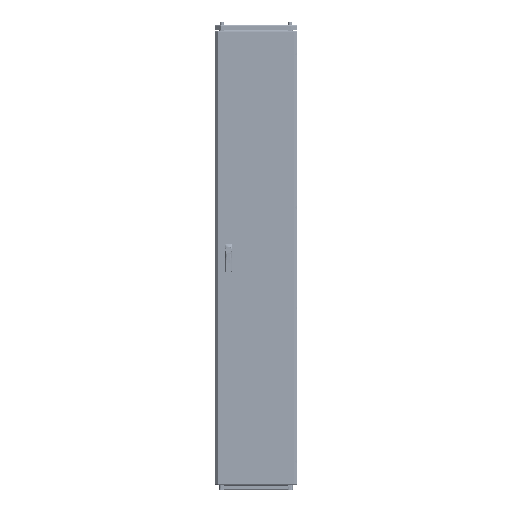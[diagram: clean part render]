
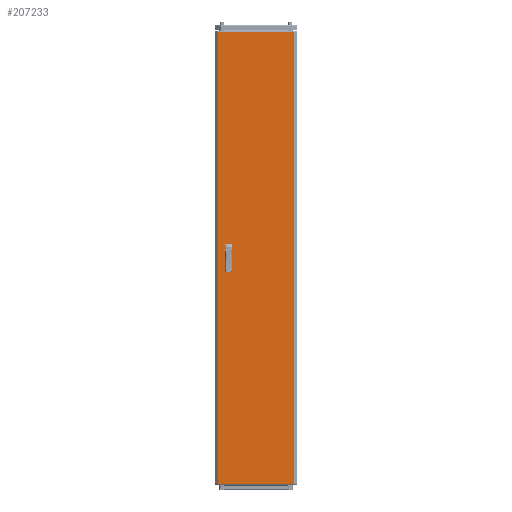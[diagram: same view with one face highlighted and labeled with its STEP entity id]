
A CAD part, top view. The second image highlights one B-rep face of the part: STEP entity #207233.
In plain terms, the highlighted planar face has unit normal (0, 0, 1).
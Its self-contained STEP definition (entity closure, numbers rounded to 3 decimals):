
#635 = DIRECTION ( 'NONE',  ( 0., -1., 0. ) ) ;
#8031 = VECTOR ( 'NONE', #155814, 1000. ) ;
#8429 = EDGE_CURVE ( 'NONE', #83377, #210552, #193304, .T. ) ;
#9588 = LINE ( 'NONE', #71155, #249215 ) ;
#12951 = VECTOR ( 'NONE', #177826, 1000. ) ;
#16030 = LINE ( 'NONE', #194416, #8031 ) ;
#16830 = DIRECTION ( 'NONE',  ( 0., 0., -1. ) ) ;
#21239 = LINE ( 'NONE', #99475, #12951 ) ;
#25514 = VERTEX_POINT ( 'NONE', #42220 ) ;
#29034 = VERTEX_POINT ( 'NONE', #188998 ) ;
#29462 = VECTOR ( 'NONE', #79240, 1000. ) ;
#39290 = EDGE_CURVE ( 'NONE', #113518, #168071, #102592, .T. ) ;
#39614 = EDGE_CURVE ( 'NONE', #95389, #169929, #21239, .T. ) ;
#39867 = ORIENTED_EDGE ( 'NONE', *, *, #8429, .T. ) ;
#40278 = ORIENTED_EDGE ( 'NONE', *, *, #245644, .F. ) ;
#41080 = CARTESIAN_POINT ( 'NONE',  ( -142.5, 12.5, 0. ) ) ;
#42220 = CARTESIAN_POINT ( 'NONE',  ( 177.875, 1069.5, 0. ) ) ;
#42899 = EDGE_LOOP ( 'NONE', ( #149286, #40278, #44922, #120618 ) ) ;
#44922 = ORIENTED_EDGE ( 'NONE', *, *, #70590, .F. ) ;
#52587 = DIRECTION ( 'NONE',  ( -1., 0., 0. ) ) ;
#53176 = DIRECTION ( 'NONE',  ( 1., 0., 0. ) ) ;
#56841 = VECTOR ( 'NONE', #229194, 1000. ) ;
#57498 = CARTESIAN_POINT ( 'NONE',  ( 177.875, -1069.5, 0. ) ) ;
#59467 = CARTESIAN_POINT ( 'NONE',  ( -117.5, -62.5, 0. ) ) ;
#65649 = FACE_BOUND ( 'NONE', #42899, .T. ) ;
#67154 = ORIENTED_EDGE ( 'NONE', *, *, #226108, .T. ) ;
#69339 = CARTESIAN_POINT ( 'NONE',  ( -142.5, -62.5, 0. ) ) ;
#70062 = CARTESIAN_POINT ( 'NONE',  ( -177.875, 1069.5, 0. ) ) ;
#70590 = EDGE_CURVE ( 'NONE', #169929, #29034, #146839, .T. ) ;
#71155 = CARTESIAN_POINT ( 'NONE',  ( -142.5, 12.5, 0. ) ) ;
#73103 = CARTESIAN_POINT ( 'NONE',  ( -117.5, -12.5, 0. ) ) ;
#73648 = CARTESIAN_POINT ( 'NONE',  ( -117.5, 62.5, 0. ) ) ;
#78703 = CARTESIAN_POINT ( 'NONE',  ( -142.5, 12.5, 0. ) ) ;
#78894 = ORIENTED_EDGE ( 'NONE', *, *, #213904, .T. ) ;
#79240 = DIRECTION ( 'NONE',  ( 0., 1., 0. ) ) ;
#80743 = CARTESIAN_POINT ( 'NONE',  ( -142.5, -12.5, 0. ) ) ;
#81761 = VECTOR ( 'NONE', #52587, 1000. ) ;
#83377 = VERTEX_POINT ( 'NONE', #70062 ) ;
#83753 = VERTEX_POINT ( 'NONE', #90258 ) ;
#90258 = CARTESIAN_POINT ( 'NONE',  ( 177.875, -1069.5, 0. ) ) ;
#94575 = VECTOR ( 'NONE', #145589, 1000. ) ;
#95058 = DIRECTION ( 'NONE',  ( -1., 0., 0. ) ) ;
#95389 = VERTEX_POINT ( 'NONE', #80743 ) ;
#96321 = CARTESIAN_POINT ( 'NONE',  ( 0., 0., 0. ) ) ;
#99475 = CARTESIAN_POINT ( 'NONE',  ( -142.5, -62.5, 0. ) ) ;
#102283 = CARTESIAN_POINT ( 'NONE',  ( -177.875, -1069.5, 0. ) ) ;
#102592 = LINE ( 'NONE', #41080, #164383 ) ;
#102963 = LINE ( 'NONE', #59467, #205726 ) ;
#103356 = EDGE_CURVE ( 'NONE', #110490, #95389, #228548, .T. ) ;
#104509 = EDGE_CURVE ( 'NONE', #125290, #113518, #185203, .T. ) ;
#107015 = VECTOR ( 'NONE', #128250, 1000. ) ;
#110490 = VERTEX_POINT ( 'NONE', #73103 ) ;
#110810 = CARTESIAN_POINT ( 'NONE',  ( -117.5, 12.5, 0. ) ) ;
#111608 = ORIENTED_EDGE ( 'NONE', *, *, #113900, .F. ) ;
#113518 = VERTEX_POINT ( 'NONE', #245037 ) ;
#113541 = CARTESIAN_POINT ( 'NONE',  ( -177.875, -1069.5, 0. ) ) ;
#113900 = EDGE_CURVE ( 'NONE', #221355, #125290, #16030, .T. ) ;
#120618 = ORIENTED_EDGE ( 'NONE', *, *, #39614, .F. ) ;
#121486 = ORIENTED_EDGE ( 'NONE', *, *, #196801, .T. ) ;
#125290 = VERTEX_POINT ( 'NONE', #73648 ) ;
#126105 = DIRECTION ( 'NONE',  ( -1., 0., 0. ) ) ;
#126158 = EDGE_CURVE ( 'NONE', #168071, #221355, #9588, .T. ) ;
#128250 = DIRECTION ( 'NONE',  ( -1., 0., 0. ) ) ;
#136739 = CARTESIAN_POINT ( 'NONE',  ( -177.875, -1069.5, 0. ) ) ;
#141539 = DIRECTION ( 'NONE',  ( 0., 1., 0. ) ) ;
#143956 = FACE_OUTER_BOUND ( 'NONE', #172152, .T. ) ;
#145589 = DIRECTION ( 'NONE',  ( 1., 0., 0. ) ) ;
#146839 = LINE ( 'NONE', #243288, #94575 ) ;
#149286 = ORIENTED_EDGE ( 'NONE', *, *, #103356, .F. ) ;
#150746 = LINE ( 'NONE', #113541, #56841 ) ;
#155814 = DIRECTION ( 'NONE',  ( 0., 1., 0. ) ) ;
#160162 = VECTOR ( 'NONE', #126105, 1000. ) ;
#163164 = FACE_BOUND ( 'NONE', #227261, .T. ) ;
#164202 = CARTESIAN_POINT ( 'NONE',  ( -177.875, 1069.5, 0. ) ) ;
#164383 = VECTOR ( 'NONE', #179692, 1000. ) ;
#168071 = VERTEX_POINT ( 'NONE', #78703 ) ;
#169929 = VERTEX_POINT ( 'NONE', #69339 ) ;
#172152 = EDGE_LOOP ( 'NONE', ( #67154, #121486, #39867, #78894 ) ) ;
#177826 = DIRECTION ( 'NONE',  ( 0., -1., 0. ) ) ;
#179692 = DIRECTION ( 'NONE',  ( 0., -1., 0. ) ) ;
#183933 = CARTESIAN_POINT ( 'NONE',  ( -142.5, 62.5, 0. ) ) ;
#185203 = LINE ( 'NONE', #183933, #160162 ) ;
#188998 = CARTESIAN_POINT ( 'NONE',  ( -117.5, -62.5, 0. ) ) ;
#193304 = LINE ( 'NONE', #136739, #219083 ) ;
#194416 = CARTESIAN_POINT ( 'NONE',  ( -117.5, 12.5, 0. ) ) ;
#196801 = EDGE_CURVE ( 'NONE', #25514, #83377, #241414, .T. ) ;
#205726 = VECTOR ( 'NONE', #141539, 1000. ) ;
#207233 = ADVANCED_FACE ( 'NONE', ( #163164, #65649, #143956 ), #222380, .F. ) ;
#210552 = VERTEX_POINT ( 'NONE', #102283 ) ;
#213904 = EDGE_CURVE ( 'NONE', #210552, #83753, #150746, .T. ) ;
#219083 = VECTOR ( 'NONE', #635, 1000. ) ;
#220133 = ORIENTED_EDGE ( 'NONE', *, *, #39290, .F. ) ;
#221355 = VERTEX_POINT ( 'NONE', #110810 ) ;
#222380 = PLANE ( 'NONE',  #252997 ) ;
#226108 = EDGE_CURVE ( 'NONE', #83753, #25514, #236375, .T. ) ;
#227261 = EDGE_LOOP ( 'NONE', ( #251469, #111608, #237431, #220133 ) ) ;
#228548 = LINE ( 'NONE', #232368, #81761 ) ;
#229194 = DIRECTION ( 'NONE',  ( 1., 0., 0. ) ) ;
#232368 = CARTESIAN_POINT ( 'NONE',  ( -142.5, -12.5, 0. ) ) ;
#236375 = LINE ( 'NONE', #57498, #29462 ) ;
#237431 = ORIENTED_EDGE ( 'NONE', *, *, #126158, .F. ) ;
#241414 = LINE ( 'NONE', #164202, #107015 ) ;
#243288 = CARTESIAN_POINT ( 'NONE',  ( -142.5, -62.5, 0. ) ) ;
#245037 = CARTESIAN_POINT ( 'NONE',  ( -142.5, 62.5, 0. ) ) ;
#245644 = EDGE_CURVE ( 'NONE', #29034, #110490, #102963, .T. ) ;
#249215 = VECTOR ( 'NONE', #53176, 1000. ) ;
#251469 = ORIENTED_EDGE ( 'NONE', *, *, #104509, .F. ) ;
#252997 = AXIS2_PLACEMENT_3D ( 'NONE', #96321, #16830, #95058 ) ;
